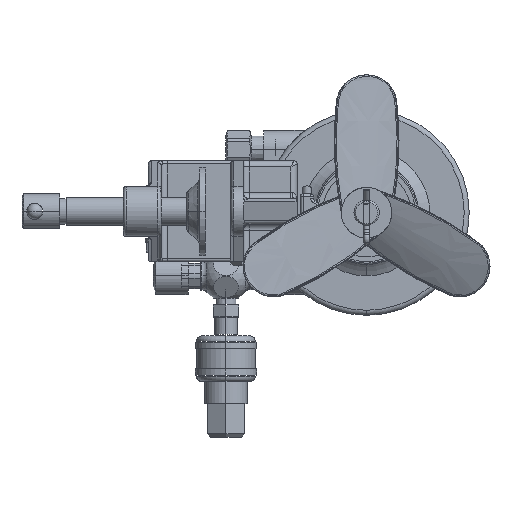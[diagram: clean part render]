
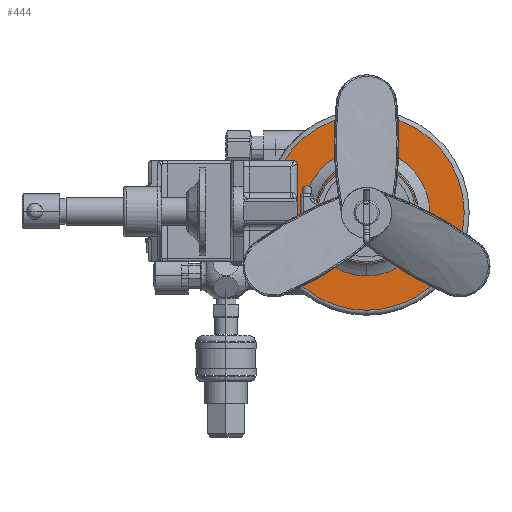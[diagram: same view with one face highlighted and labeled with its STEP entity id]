
A CAD part, front view. The second image highlights one B-rep face of the part: STEP entity #444.
In plain terms, the highlighted planar face has unit normal (0, -1, 0).
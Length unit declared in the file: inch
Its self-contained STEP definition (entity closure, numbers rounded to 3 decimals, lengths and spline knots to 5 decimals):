
#69=CARTESIAN_POINT('',(0.,0.,0.));
#70=DIRECTION('',(0.,-1.,0.));
#71=DIRECTION('',(0.,0.,1.));
#72=AXIS2_PLACEMENT_3D('',#69,#70,#71);
#79=CARTESIAN_POINT('',(0.,0.,0.));
#80=DIRECTION('',(0.,1.,0.));
#81=DIRECTION('',(0.,0.,1.));
#82=AXIS2_PLACEMENT_3D('',#79,#80,#81);
#321=CARTESIAN_POINT('',(0.,0.,1.93));
#322=CARTESIAN_POINT('',(0.,0.,-1.93));
#323=VERTEX_POINT('',#321);
#324=VERTEX_POINT('',#322);
#433=CARTESIAN_POINT('',(0.,0.,0.));
#434=DIRECTION('',(0.,1.,0.));
#435=DIRECTION('',(0.,0.,-1.));
#436=AXIS2_PLACEMENT_3D('',#433,#434,#435);
#437=PLANE('',#436);
#439=ORIENTED_EDGE('',*,*,#438,.F.);
#441=ORIENTED_EDGE('',*,*,#440,.T.);
#442=EDGE_LOOP('',(#439,#441));
#443=FACE_OUTER_BOUND('',#442,.F.);
#444=ADVANCED_FACE('',(#443),#437,.F.);
#73=CIRCLE('',#72,1.93);
#83=CIRCLE('',#82,1.93);
#438=EDGE_CURVE('',#323,#324,#73,.T.);
#440=EDGE_CURVE('',#323,#324,#83,.T.);
